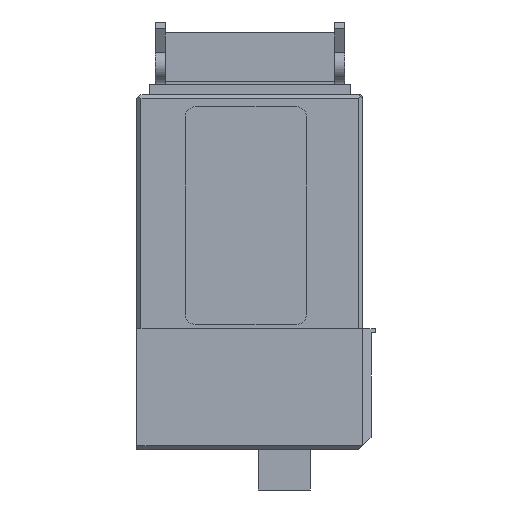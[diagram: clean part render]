
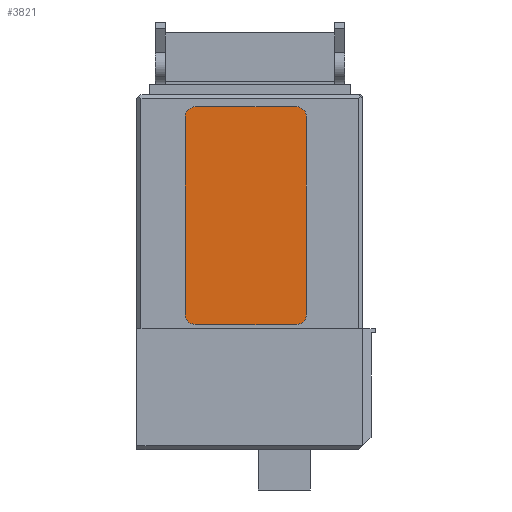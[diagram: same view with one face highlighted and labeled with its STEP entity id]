
A CAD part, left-side view. The second image highlights one B-rep face of the part: STEP entity #3821.
In plain terms, the highlighted planar face has unit normal (-1, 0, 0).
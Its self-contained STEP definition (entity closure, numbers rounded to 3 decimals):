
#771 = PLANE('',#772);
#772 = AXIS2_PLACEMENT_3D('',#773,#774,#775);
#773 = CARTESIAN_POINT('',(-32.,16.5,55.));
#774 = DIRECTION('',(0.,0.,1.));
#775 = DIRECTION('',(0.,1.,0.));
#804 = CYLINDRICAL_SURFACE('',#805,2.5);
#805 = AXIS2_PLACEMENT_3D('',#806,#807,#808);
#806 = CARTESIAN_POINT('',(-32.,16.5,52.5));
#807 = DIRECTION('',(-1.,0.,0.));
#808 = DIRECTION('',(0.,1.,0.));
#832 = PLANE('',#833);
#833 = AXIS2_PLACEMENT_3D('',#834,#835,#836);
#834 = CARTESIAN_POINT('',(-32.,14.,52.5));
#835 = DIRECTION('',(0.,1.,0.));
#836 = DIRECTION('',(0.,0.,-1.));
#865 = CYLINDRICAL_SURFACE('',#866,2.5);
#866 = AXIS2_PLACEMENT_3D('',#867,#868,#869);
#867 = CARTESIAN_POINT('',(-32.,16.5,3.5));
#868 = DIRECTION('',(-1.,0.,0.));
#869 = DIRECTION('',(0.,1.,0.));
#893 = PLANE('',#894);
#894 = AXIS2_PLACEMENT_3D('',#895,#896,#897);
#895 = CARTESIAN_POINT('',(-32.,16.5,1.));
#896 = DIRECTION('',(0.,0.,1.));
#897 = DIRECTION('',(0.,1.,0.));
#926 = CYLINDRICAL_SURFACE('',#927,2.5);
#927 = AXIS2_PLACEMENT_3D('',#928,#929,#930);
#928 = CARTESIAN_POINT('',(-32.,41.5,3.5));
#929 = DIRECTION('',(-1.,0.,0.));
#930 = DIRECTION('',(0.,1.,0.));
#954 = PLANE('',#955);
#955 = AXIS2_PLACEMENT_3D('',#956,#957,#958);
#956 = CARTESIAN_POINT('',(-32.,44.,3.5));
#957 = DIRECTION('',(0.,-1.,0.));
#958 = DIRECTION('',(0.,0.,1.));
#985 = CYLINDRICAL_SURFACE('',#986,2.5);
#986 = AXIS2_PLACEMENT_3D('',#987,#988,#989);
#987 = CARTESIAN_POINT('',(-32.,41.5,52.5));
#988 = DIRECTION('',(-1.,0.,0.));
#989 = DIRECTION('',(0.,1.,0.));
#2160 = VERTEX_POINT('',#2161);
#2161 = CARTESIAN_POINT('',(-31.8,16.5,55.));
#2182 = EDGE_CURVE('',#2160,#2183,#2185,.T.);
#2183 = VERTEX_POINT('',#2184);
#2184 = CARTESIAN_POINT('',(-31.8,41.5,55.));
#2185 = SURFACE_CURVE('',#2186,(#2190,#2197),.PCURVE_S1.);
#2186 = LINE('',#2187,#2188);
#2187 = CARTESIAN_POINT('',(-31.8,16.5,55.));
#2188 = VECTOR('',#2189,1.);
#2189 = DIRECTION('',(0.,1.,0.));
#2190 = PCURVE('',#771,#2191);
#2191 = DEFINITIONAL_REPRESENTATION('',(#2192),#2196);
#2192 = LINE('',#2193,#2194);
#2193 = CARTESIAN_POINT('',(0.,-0.2));
#2194 = VECTOR('',#2195,1.);
#2195 = DIRECTION('',(1.,0.));
#2196 = ( GEOMETRIC_REPRESENTATION_CONTEXT(2) 
PARAMETRIC_REPRESENTATION_CONTEXT() REPRESENTATION_CONTEXT('2D SPACE',''
  ) );
#2197 = PCURVE('',#2198,#2203);
#2198 = PLANE('',#2199);
#2199 = AXIS2_PLACEMENT_3D('',#2200,#2201,#2202);
#2200 = CARTESIAN_POINT('',(-31.8,29.,28.));
#2201 = DIRECTION('',(1.,0.,0.));
#2202 = DIRECTION('',(0.,0.,1.));
#2203 = DEFINITIONAL_REPRESENTATION('',(#2204),#2208);
#2204 = LINE('',#2205,#2206);
#2205 = CARTESIAN_POINT('',(27.,12.5));
#2206 = VECTOR('',#2207,1.);
#2207 = DIRECTION('',(0.,-1.));
#2208 = ( GEOMETRIC_REPRESENTATION_CONTEXT(2) 
PARAMETRIC_REPRESENTATION_CONTEXT() REPRESENTATION_CONTEXT('2D SPACE',''
  ) );
#2236 = VERTEX_POINT('',#2237);
#2237 = CARTESIAN_POINT('',(-31.8,44.,52.5));
#2258 = EDGE_CURVE('',#2236,#2183,#2259,.T.);
#2259 = SURFACE_CURVE('',#2260,(#2265,#2272),.PCURVE_S1.);
#2260 = CIRCLE('',#2261,2.5);
#2261 = AXIS2_PLACEMENT_3D('',#2262,#2263,#2264);
#2262 = CARTESIAN_POINT('',(-31.8,41.5,52.5));
#2263 = DIRECTION('',(1.,-0.,0.));
#2264 = DIRECTION('',(0.,1.,0.));
#2265 = PCURVE('',#985,#2266);
#2266 = DEFINITIONAL_REPRESENTATION('',(#2267),#2271);
#2267 = LINE('',#2268,#2269);
#2268 = CARTESIAN_POINT('',(-0.,-0.2));
#2269 = VECTOR('',#2270,1.);
#2270 = DIRECTION('',(-1.,0.));
#2271 = ( GEOMETRIC_REPRESENTATION_CONTEXT(2) 
PARAMETRIC_REPRESENTATION_CONTEXT() REPRESENTATION_CONTEXT('2D SPACE',''
  ) );
#2272 = PCURVE('',#2198,#2273);
#2273 = DEFINITIONAL_REPRESENTATION('',(#2274),#2278);
#2274 = CIRCLE('',#2275,2.5);
#2275 = AXIS2_PLACEMENT_2D('',#2276,#2277);
#2276 = CARTESIAN_POINT('',(24.5,-12.5));
#2277 = DIRECTION('',(0.,-1.));
#2278 = ( GEOMETRIC_REPRESENTATION_CONTEXT(2) 
PARAMETRIC_REPRESENTATION_CONTEXT() REPRESENTATION_CONTEXT('2D SPACE',''
  ) );
#2286 = VERTEX_POINT('',#2287);
#2287 = CARTESIAN_POINT('',(-31.8,44.,3.5));
#2308 = EDGE_CURVE('',#2286,#2236,#2309,.T.);
#2309 = SURFACE_CURVE('',#2310,(#2314,#2321),.PCURVE_S1.);
#2310 = LINE('',#2311,#2312);
#2311 = CARTESIAN_POINT('',(-31.8,44.,3.5));
#2312 = VECTOR('',#2313,1.);
#2313 = DIRECTION('',(0.,0.,1.));
#2314 = PCURVE('',#954,#2315);
#2315 = DEFINITIONAL_REPRESENTATION('',(#2316),#2320);
#2316 = LINE('',#2317,#2318);
#2317 = CARTESIAN_POINT('',(0.,-0.2));
#2318 = VECTOR('',#2319,1.);
#2319 = DIRECTION('',(1.,0.));
#2320 = ( GEOMETRIC_REPRESENTATION_CONTEXT(2) 
PARAMETRIC_REPRESENTATION_CONTEXT() REPRESENTATION_CONTEXT('2D SPACE',''
  ) );
#2321 = PCURVE('',#2198,#2322);
#2322 = DEFINITIONAL_REPRESENTATION('',(#2323),#2327);
#2323 = LINE('',#2324,#2325);
#2324 = CARTESIAN_POINT('',(-24.5,-15.));
#2325 = VECTOR('',#2326,1.);
#2326 = DIRECTION('',(1.,0.));
#2327 = ( GEOMETRIC_REPRESENTATION_CONTEXT(2) 
PARAMETRIC_REPRESENTATION_CONTEXT() REPRESENTATION_CONTEXT('2D SPACE',''
  ) );
#2335 = VERTEX_POINT('',#2336);
#2336 = CARTESIAN_POINT('',(-31.8,41.5,1.));
#2357 = EDGE_CURVE('',#2335,#2286,#2358,.T.);
#2358 = SURFACE_CURVE('',#2359,(#2364,#2371),.PCURVE_S1.);
#2359 = CIRCLE('',#2360,2.5);
#2360 = AXIS2_PLACEMENT_3D('',#2361,#2362,#2363);
#2361 = CARTESIAN_POINT('',(-31.8,41.5,3.5));
#2362 = DIRECTION('',(1.,-0.,0.));
#2363 = DIRECTION('',(0.,1.,0.));
#2364 = PCURVE('',#926,#2365);
#2365 = DEFINITIONAL_REPRESENTATION('',(#2366),#2370);
#2366 = LINE('',#2367,#2368);
#2367 = CARTESIAN_POINT('',(-0.,-0.2));
#2368 = VECTOR('',#2369,1.);
#2369 = DIRECTION('',(-1.,0.));
#2370 = ( GEOMETRIC_REPRESENTATION_CONTEXT(2) 
PARAMETRIC_REPRESENTATION_CONTEXT() REPRESENTATION_CONTEXT('2D SPACE',''
  ) );
#2371 = PCURVE('',#2198,#2372);
#2372 = DEFINITIONAL_REPRESENTATION('',(#2373),#2377);
#2373 = CIRCLE('',#2374,2.5);
#2374 = AXIS2_PLACEMENT_2D('',#2375,#2376);
#2375 = CARTESIAN_POINT('',(-24.5,-12.5));
#2376 = DIRECTION('',(0.,-1.));
#2377 = ( GEOMETRIC_REPRESENTATION_CONTEXT(2) 
PARAMETRIC_REPRESENTATION_CONTEXT() REPRESENTATION_CONTEXT('2D SPACE',''
  ) );
#2385 = VERTEX_POINT('',#2386);
#2386 = CARTESIAN_POINT('',(-31.8,16.5,1.));
#2407 = EDGE_CURVE('',#2385,#2335,#2408,.T.);
#2408 = SURFACE_CURVE('',#2409,(#2413,#2420),.PCURVE_S1.);
#2409 = LINE('',#2410,#2411);
#2410 = CARTESIAN_POINT('',(-31.8,16.5,1.));
#2411 = VECTOR('',#2412,1.);
#2412 = DIRECTION('',(0.,1.,0.));
#2413 = PCURVE('',#893,#2414);
#2414 = DEFINITIONAL_REPRESENTATION('',(#2415),#2419);
#2415 = LINE('',#2416,#2417);
#2416 = CARTESIAN_POINT('',(0.,-0.2));
#2417 = VECTOR('',#2418,1.);
#2418 = DIRECTION('',(1.,0.));
#2419 = ( GEOMETRIC_REPRESENTATION_CONTEXT(2) 
PARAMETRIC_REPRESENTATION_CONTEXT() REPRESENTATION_CONTEXT('2D SPACE',''
  ) );
#2420 = PCURVE('',#2198,#2421);
#2421 = DEFINITIONAL_REPRESENTATION('',(#2422),#2426);
#2422 = LINE('',#2423,#2424);
#2423 = CARTESIAN_POINT('',(-27.,12.5));
#2424 = VECTOR('',#2425,1.);
#2425 = DIRECTION('',(0.,-1.));
#2426 = ( GEOMETRIC_REPRESENTATION_CONTEXT(2) 
PARAMETRIC_REPRESENTATION_CONTEXT() REPRESENTATION_CONTEXT('2D SPACE',''
  ) );
#2434 = VERTEX_POINT('',#2435);
#2435 = CARTESIAN_POINT('',(-31.8,14.,3.5));
#2456 = EDGE_CURVE('',#2434,#2385,#2457,.T.);
#2457 = SURFACE_CURVE('',#2458,(#2463,#2470),.PCURVE_S1.);
#2458 = CIRCLE('',#2459,2.5);
#2459 = AXIS2_PLACEMENT_3D('',#2460,#2461,#2462);
#2460 = CARTESIAN_POINT('',(-31.8,16.5,3.5));
#2461 = DIRECTION('',(1.,-0.,0.));
#2462 = DIRECTION('',(0.,1.,0.));
#2463 = PCURVE('',#865,#2464);
#2464 = DEFINITIONAL_REPRESENTATION('',(#2465),#2469);
#2465 = LINE('',#2466,#2467);
#2466 = CARTESIAN_POINT('',(-0.,-0.2));
#2467 = VECTOR('',#2468,1.);
#2468 = DIRECTION('',(-1.,0.));
#2469 = ( GEOMETRIC_REPRESENTATION_CONTEXT(2) 
PARAMETRIC_REPRESENTATION_CONTEXT() REPRESENTATION_CONTEXT('2D SPACE',''
  ) );
#2470 = PCURVE('',#2198,#2471);
#2471 = DEFINITIONAL_REPRESENTATION('',(#2472),#2476);
#2472 = CIRCLE('',#2473,2.5);
#2473 = AXIS2_PLACEMENT_2D('',#2474,#2475);
#2474 = CARTESIAN_POINT('',(-24.5,12.5));
#2475 = DIRECTION('',(0.,-1.));
#2476 = ( GEOMETRIC_REPRESENTATION_CONTEXT(2) 
PARAMETRIC_REPRESENTATION_CONTEXT() REPRESENTATION_CONTEXT('2D SPACE',''
  ) );
#2484 = VERTEX_POINT('',#2485);
#2485 = CARTESIAN_POINT('',(-31.8,14.,52.5));
#2506 = EDGE_CURVE('',#2484,#2434,#2507,.T.);
#2507 = SURFACE_CURVE('',#2508,(#2512,#2519),.PCURVE_S1.);
#2508 = LINE('',#2509,#2510);
#2509 = CARTESIAN_POINT('',(-31.8,14.,52.5));
#2510 = VECTOR('',#2511,1.);
#2511 = DIRECTION('',(0.,0.,-1.));
#2512 = PCURVE('',#832,#2513);
#2513 = DEFINITIONAL_REPRESENTATION('',(#2514),#2518);
#2514 = LINE('',#2515,#2516);
#2515 = CARTESIAN_POINT('',(0.,-0.2));
#2516 = VECTOR('',#2517,1.);
#2517 = DIRECTION('',(1.,0.));
#2518 = ( GEOMETRIC_REPRESENTATION_CONTEXT(2) 
PARAMETRIC_REPRESENTATION_CONTEXT() REPRESENTATION_CONTEXT('2D SPACE',''
  ) );
#2519 = PCURVE('',#2198,#2520);
#2520 = DEFINITIONAL_REPRESENTATION('',(#2521),#2525);
#2521 = LINE('',#2522,#2523);
#2522 = CARTESIAN_POINT('',(24.5,15.));
#2523 = VECTOR('',#2524,1.);
#2524 = DIRECTION('',(-1.,0.));
#2525 = ( GEOMETRIC_REPRESENTATION_CONTEXT(2) 
PARAMETRIC_REPRESENTATION_CONTEXT() REPRESENTATION_CONTEXT('2D SPACE',''
  ) );
#2533 = EDGE_CURVE('',#2160,#2484,#2534,.T.);
#2534 = SURFACE_CURVE('',#2535,(#2540,#2547),.PCURVE_S1.);
#2535 = CIRCLE('',#2536,2.5);
#2536 = AXIS2_PLACEMENT_3D('',#2537,#2538,#2539);
#2537 = CARTESIAN_POINT('',(-31.8,16.5,52.5));
#2538 = DIRECTION('',(1.,-0.,0.));
#2539 = DIRECTION('',(0.,1.,0.));
#2540 = PCURVE('',#804,#2541);
#2541 = DEFINITIONAL_REPRESENTATION('',(#2542),#2546);
#2542 = LINE('',#2543,#2544);
#2543 = CARTESIAN_POINT('',(-0.,-0.2));
#2544 = VECTOR('',#2545,1.);
#2545 = DIRECTION('',(-1.,0.));
#2546 = ( GEOMETRIC_REPRESENTATION_CONTEXT(2) 
PARAMETRIC_REPRESENTATION_CONTEXT() REPRESENTATION_CONTEXT('2D SPACE',''
  ) );
#2547 = PCURVE('',#2198,#2548);
#2548 = DEFINITIONAL_REPRESENTATION('',(#2549),#2553);
#2549 = CIRCLE('',#2550,2.5);
#2550 = AXIS2_PLACEMENT_2D('',#2551,#2552);
#2551 = CARTESIAN_POINT('',(24.5,12.5));
#2552 = DIRECTION('',(0.,-1.));
#2553 = ( GEOMETRIC_REPRESENTATION_CONTEXT(2) 
PARAMETRIC_REPRESENTATION_CONTEXT() REPRESENTATION_CONTEXT('2D SPACE',''
  ) );
#3821 = ADVANCED_FACE('',(#3822),#2198,.F.);
#3822 = FACE_BOUND('',#3823,.F.);
#3823 = EDGE_LOOP('',(#3824,#3825,#3826,#3827,#3828,#3829,#3830,#3831));
#3824 = ORIENTED_EDGE('',*,*,#2533,.T.);
#3825 = ORIENTED_EDGE('',*,*,#2506,.T.);
#3826 = ORIENTED_EDGE('',*,*,#2456,.T.);
#3827 = ORIENTED_EDGE('',*,*,#2407,.T.);
#3828 = ORIENTED_EDGE('',*,*,#2357,.T.);
#3829 = ORIENTED_EDGE('',*,*,#2308,.T.);
#3830 = ORIENTED_EDGE('',*,*,#2258,.T.);
#3831 = ORIENTED_EDGE('',*,*,#2182,.F.);
